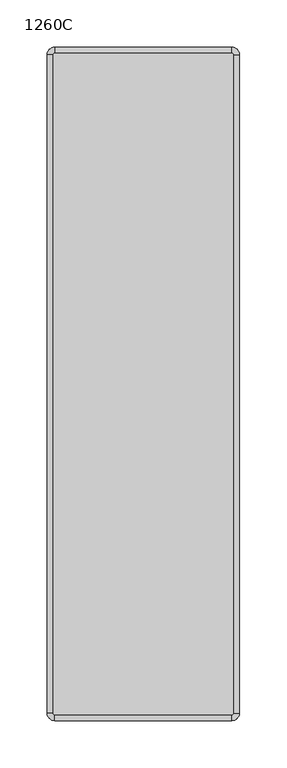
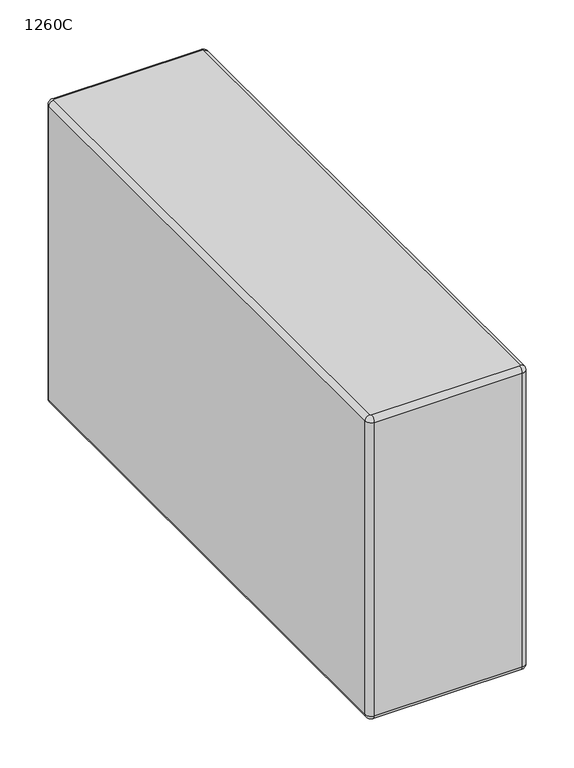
"""IFC4 building model written with IfcOpenShell, lengths in millimetres: furniture geometry, Laguna-Box_Arm-ERG : 1260C."""

import ifcopenshell
import ifcopenshell.guid

model = None  # the IFC model being written
_history = None  # IfcOwnerHistory: only IFC2X3 demands one
_inside = {}  # id of a spatial element -> (the spatial element, [elements in it])
_under = {}  # id of a project, library or spatial element -> (it, [spatial elements below it])
_declared = {}  # id of a project -> (the project, [libraries it declares])
_typed = {}  # id of a type object -> (the type object, [elements of that type])
_made_of = {}  # id of a material, layer set ... -> (it, [elements and type objects made of it])


def new_model(schema):
    """Start an empty IFC model of exactly this schema.

    Asked for "IFC4X3", IfcOpenShell would pick the latest addendum, in which some entities
    have other attributes; the version numbers below select the first issue.
    IFC2X3 requires an IfcOwnerHistory on every rooted entity: one is made here for all.
    """
    global model, _history
    if schema == "IFC4X3":
        model = ifcopenshell.file(schema_version=(4, 3, 0, 0))
    else:
        model = ifcopenshell.file(schema=schema)
    _inside.clear()
    _under.clear()
    _declared.clear()
    _typed.clear()
    _made_of.clear()
    _history = None
    if model.schema == "IFC2X3":
        org = make("IfcOrganization", Name="unknown")
        user = make(
            "IfcPersonAndOrganization",
            ThePerson=make("IfcPerson", FamilyName="unknown"),
            TheOrganization=org,
        )
        app = make(
            "IfcApplication",
            ApplicationDeveloper=org,
            Version="unknown",
            ApplicationFullName="unknown",
            ApplicationIdentifier="unknown",
        )
        _history = make(
            "IfcOwnerHistory",
            OwningUser=user,
            OwningApplication=app,
            ChangeAction="ADDED",
            CreationDate=0,
        )
    return model


def make(cls, **values):
    """One entity of the class cls with the attributes given. An attribute that is None is left unset."""
    return model.create_entity(
        cls, **{name: value for name, value in values.items() if value is not None}
    )


def rooted(cls, **values):
    """An entity with a GlobalId (a new one), such as an element, a storey or a relation."""
    return make(cls, GlobalId=ifcopenshell.guid.new(), OwnerHistory=_history, **values)


def si_unit(unit_type, name, prefix=None):
    """IfcSIUnit, for example si_unit("LENGTHUNIT", "METRE", prefix="MILLI")."""
    return make("IfcSIUnit", UnitType=unit_type, Prefix=prefix, Name=name)


def assignment(units):
    """IfcUnitAssignment: the units of a project."""
    return None if units is None else make("IfcUnitAssignment", Units=units)


def point(xyz):
    """IfcCartesianPoint."""
    return None if xyz is None else make("IfcCartesianPoint", Coordinates=xyz)


def direction(xyz):
    """IfcDirection."""
    return None if xyz is None else make("IfcDirection", DirectionRatios=xyz)


def frame(location, z_axis=None, x_axis=None):
    """IfcAxis2Placement3D, a coordinate frame: its origin and axes. An axis left out is left unset."""
    return make(
        "IfcAxis2Placement3D",
        Location=point(location),
        Axis=direction(z_axis),
        RefDirection=direction(x_axis),
    )


def origin():
    """The frame at (0, 0, 0) with its axes left unset."""
    return frame((0.0, 0.0, 0.0))


def place(relative_to, where):
    """IfcLocalPlacement: puts the frame where relative to a parent placement (None: the world)."""
    return make(
        "IfcLocalPlacement", PlacementRelTo=relative_to, RelativePlacement=where
    )


def context(
    kind, dimensions, precision=None, world=None, true_north=None, identifier=None
):
    """IfcGeometricRepresentationContext, for example the 3D "Model" context."""
    return make(
        "IfcGeometricRepresentationContext",
        ContextIdentifier=identifier,
        ContextType=kind,
        CoordinateSpaceDimension=dimensions,
        Precision=precision,
        WorldCoordinateSystem=world,
        TrueNorth=true_north,
    )


def project(units=None, contexts=None):
    """IfcProject with its units and contexts."""
    return rooted(
        "IfcProject",
        Name="project",
        RepresentationContexts=contexts,
        UnitsInContext=assignment(units),
    )


def spatial(cls, under=None, at=None, **own):
    """A site, building, storey or space (cls), placed at a placement, below another one or the project."""
    s = rooted(cls, ObjectPlacement=at, **own)
    if under is not None:
        _under.setdefault(under.id(), (under, []))[1].append(s)
    return s


def circle_curve(where, radius):
    """IfcCircle in the frame where."""
    return make("IfcCircle", Position=where, Radius=radius)


def ellipse_curve(where, semi_axis1, semi_axis2):
    """IfcEllipse in the frame where."""
    return make(
        "IfcEllipse", Position=where, SemiAxis1=semi_axis1, SemiAxis2=semi_axis2
    )


def trimmed(basis, trim1, trim2, sense, master):
    """IfcTrimmedCurve: the piece of a basis curve between two trims."""
    return make(
        "IfcTrimmedCurve",
        BasisCurve=basis,
        Trim1=trim1,
        Trim2=trim2,
        SenseAgreement=sense,
        MasterRepresentation=master,
    )


def shape(context_of_items, identifier, shape_type, items):
    """IfcShapeRepresentation: the items that make up one representation, for example the "Body"."""
    return make(
        "IfcShapeRepresentation",
        ContextOfItems=context_of_items,
        RepresentationIdentifier=identifier,
        RepresentationType=shape_type,
        Items=items,
    )


def source(mapping_origin, context_of_items, identifier, shape_type, items):
    """IfcRepresentationMap: a shape defined once, which mapped items show again and again."""
    return make(
        "IfcRepresentationMap",
        MappingOrigin=mapping_origin,
        MappedRepresentation=shape(context_of_items, identifier, shape_type, items),
    )


def transform(
    local_origin,
    x_axis=None,
    y_axis=None,
    z_axis=None,
    scale=None,
    scale2=None,
    scale3=None,
    uniform=True,
):
    """IfcCartesianTransformationOperator3D, or its non-uniform kind. x_axis, y_axis, z_axis: its Axis1, 2, 3."""
    if uniform:
        return make(
            "IfcCartesianTransformationOperator3D",
            Axis1=direction(x_axis),
            Axis2=direction(y_axis),
            LocalOrigin=point(local_origin),
            Scale=scale,
            Axis3=direction(z_axis),
        )
    return make(
        "IfcCartesianTransformationOperator3DnonUniform",
        Axis1=direction(x_axis),
        Axis2=direction(y_axis),
        LocalOrigin=point(local_origin),
        Scale=scale,
        Axis3=direction(z_axis),
        Scale2=scale2,
        Scale3=scale3,
    )


def mapped(mapping_source, mapping_target):
    """IfcMappedItem: shows the shape of a source again, moved by a transform."""
    return make(
        "IfcMappedItem", MappingSource=mapping_source, MappingTarget=mapping_target
    )


def made_of(thing, what):
    """Note that an element or type object is made of a material, layer set ...; save() writes the relation."""
    if what is not None:
        _made_of.setdefault(what.id(), (what, []))[1].append(thing)
    return thing


def element(
    cls,
    number,
    at=None,
    inside=None,
    cuts=None,
    type_object=None,
    material=None,
    context=None,
    identifier="Body",
    shape_type=None,
    held_by="IfcProductDefinitionShape",
    body=None,
    shapes=None,
    **own,
):
    """One element of the class cls, such as IfcWall. Its Tag is "e" and its number.

    at: its placement. inside: the storey or other place that contains it. cuts: it is an
    opening in that element (IfcRelVoidsElement). A single representation is given by context,
    identifier, shape_type and body (its items); several are given by shapes. held_by: the class
    of the entity that holds the representations. save() writes the other relations.
    """
    e = rooted(cls, Tag="e%d" % number, ObjectPlacement=at, **own)
    if body is not None:
        shapes = [shape(context, identifier, shape_type, body)]
    if shapes is not None:
        e.Representation = make(held_by, Representations=shapes)
    if inside is not None:
        _inside.setdefault(inside.id(), (inside, []))[1].append(e)
    if cuts is not None:
        rooted(
            "IfcRelVoidsElement", RelatingBuildingElement=cuts, RelatedOpeningElement=e
        )
    if type_object is not None:
        _typed.setdefault(type_object.id(), (type_object, []))[1].append(e)
    return made_of(e, material)


def aggregate(whole, parts):
    """IfcRelAggregates: a whole, such as a stair, and the parts it consists of."""
    return rooted("IfcRelAggregates", RelatingObject=whole, RelatedObjects=parts)


def save(model, path):
    """Write the relations noted so far, then the file.

    IfcRelAggregates (storeys below a building ...), IfcRelContainedInSpatialStructure (elements
    in a storey), IfcRelDefinesByType, IfcRelAssociatesMaterial and IfcRelDeclares: one each for
    every whole, place, type object, material and project.
    """
    for whole, parts in _under.values():
        aggregate(whole, parts)
    for where, things in _inside.values():
        rooted(
            "IfcRelContainedInSpatialStructure",
            RelatedElements=things,
            RelatingStructure=where,
        )
    for kind, things in _typed.values():
        rooted("IfcRelDefinesByType", RelatedObjects=things, RelatingType=kind)
    for what, things in _made_of.values():
        rooted("IfcRelAssociatesMaterial", RelatedObjects=things, RelatingMaterial=what)
    for by, libraries in _declared.values():
        rooted("IfcRelDeclares", RelatingContext=by, RelatedDefinitions=libraries)
    model.write(path)


def plane_surface(at):
    """IfcPlane: the flat surface through the origin of the frame at, square to its z axis."""
    return make("IfcPlane", Position=at)


def cylinder_surface(at, radius):
    """IfcCylindricalSurface: all points at the distance radius from the z axis of the frame at."""
    return make("IfcCylindricalSurface", Position=at, Radius=radius)


def revolved_surface(curve, axis_point, axis_direction):
    """IfcSurfaceOfRevolution: the curve turned about the line through axis_point along axis_direction."""
    return make(
        "IfcSurfaceOfRevolution",
        SweptCurve=make("IfcArbitraryOpenProfileDef", ProfileType="CURVE", Curve=curve),
        AxisPosition=make("IfcAxis1Placement", Location=point(axis_point), Axis=direction(axis_direction)),
    )


def advanced_brep(points, edges, surfaces, faces):
    """IfcAdvancedBrep: a solid bounded by faces that lie on surfaces and meet in shared edges.

    An edge is (start, end): straight between two places in points (the first is 0);
    or (start, end, curve); or (start, end, curve, False) where it runs against its curve.
    A face is (place in surfaces, loops), or (place, loops, False) where it looks against
    its surface's normal. A loop lists edges by number (the first is 1), with a minus sign
    where the edge is run from its end to its start. The first loop is the outer one.
    """
    corners = [point(p) for p in points]
    vertices = [make("IfcVertexPoint", VertexGeometry=c) for c in corners]
    made = []
    for start, end, *more in edges:
        made.append(
            make(
                "IfcEdgeCurve",
                EdgeStart=vertices[start],
                EdgeEnd=vertices[end],
                EdgeGeometry=more[0] if more else make("IfcPolyline", Points=[corners[start], corners[end]]),
                SameSense=more[1] if len(more) > 1 else True,
            )
        )
    hull = []
    for where, loops, *sense in faces:
        bounds = []
        for j, loop in enumerate(loops):
            ring = [make("IfcOrientedEdge", EdgeElement=made[abs(k) - 1], Orientation=k > 0) for k in loop]
            bounds.append(
                make(
                    "IfcFaceOuterBound" if j == 0 else "IfcFaceBound",
                    Bound=make("IfcEdgeLoop", EdgeList=ring),
                    Orientation=True,
                )
            )
        hull.append(make("IfcAdvancedFace", Bounds=bounds, FaceSurface=surfaces[where], SameSense=sense[0] if sense else True))
    return make("IfcAdvancedBrep", Outer=make("IfcClosedShell", CfsFaces=hull))


def furniture_1260c_ce64365a(model_context):
    return source(origin(), model_context, "Body", "AdvancedBrep", [
        advanced_brep(
        [(-4669.0921763, 1251.9358502, 609.6), (-4670.3621763, 1253.2058502, 609.6), (-4858.3221763, 1253.2058502, 609.6), (-4859.5921763, 1251.9358502, 609.6), (-4859.5921763, 555.9758502, 609.6), (-4858.3221763, 554.7058502, 609.6), (-4670.3621763, 554.7058502, 609.6), (-4669.0921763, 555.9758502, 609.6), (-4670.3621763, 1253.2058502, 203.2), (-4669.0921763, 1251.9358502, 203.2), (-4669.0921763, 555.9758502, 203.2), (-4670.3621763, 554.7058502, 203.2), (-4858.3221763, 554.7058502, 203.2), (-4859.5921763, 555.9758502, 203.2), (-4859.5921763, 1251.9358502, 203.2), (-4858.322176, 1253.2058502, 203.2), (-4662.7421763, 1251.9358502, 209.55), (-4670.3621763, 1259.5558502, 209.55), (-4670.3621763, 1259.5558502, 603.25), (-4662.7421763, 1251.9358502, 603.25), (-4662.7421763, 555.9758502, 603.25), (-4662.7421763, 555.9758502, 209.55), (-4670.3621763, 548.3558502, 603.25), (-4670.3621763, 548.3558502, 209.55), (-4858.3221763, 548.3558502, 603.25), (-4858.3221763, 548.3558502, 209.55), (-4865.9421763, 555.9758502, 603.25), (-4865.9421763, 555.9758502, 209.55), (-4865.9421763, 1251.9358502, 603.25), (-4865.9421763, 1251.9358502, 209.55), (-4858.3221763, 1259.5558502, 603.25), (-4858.3221763, 1259.5558502, 209.55)],
        [
            (0, 1, circle_curve(frame((-4670.3621763, 1251.9358502, 609.6), z_axis=(0.0, 0.0, 1.0), x_axis=(0.0, 1.0, 0.0)), 1.27)),
            (1, 2),
            (2, 3, circle_curve(frame((-4858.3221763, 1251.9358502, 609.6), z_axis=(0.0, 0.0, 1.0), x_axis=(-1.0, 0.0, 0.0)), 1.27)),
            (3, 4),
            (4, 5, circle_curve(frame((-4858.3221763, 555.9758502, 609.6), z_axis=(0.0, 0.0, 1.0), x_axis=(0.0, -1.0, 0.0)), 1.27)),
            (5, 6),
            (6, 7, circle_curve(frame((-4670.3621763, 555.9758502, 609.6), z_axis=(0.0, 0.0, 1.0), x_axis=(1.0, 0.0, 0.0)), 1.27)),
            (7, 0),
            (8, 9, circle_curve(frame((-4670.3621763, 1251.9358502, 203.2), z_axis=(0.0, 0.0, -1.0), x_axis=(0.0, 1.0, 0.0)), 1.27)),
            (9, 10),
            (10, 11, circle_curve(frame((-4670.3621763, 555.9758502, 203.2), z_axis=(0.0, 0.0, -1.0), x_axis=(1.0, 0.0, 0.0)), 1.27)),
            (11, 12),
            (12, 13, circle_curve(frame((-4858.3221763, 555.9758502, 203.2), z_axis=(0.0, 0.0, -1.0), x_axis=(0.0, -1.0, 0.0)), 1.27)),
            (13, 14),
            (14, 15, circle_curve(frame((-4858.3221763, 1251.9358502, 203.2), z_axis=(0.0, 0.0, -1.0), x_axis=(-1.0, 0.0, 0.0)), 1.27)),
            (15, 8),
            (16, 17, circle_curve(frame((-4670.3621763, 1251.9358502, 209.55), z_axis=(0.0, 0.0, 1.0), x_axis=(0.0, 1.0, 0.0)), 7.62)),
            (17, 18),
            (18, 19, circle_curve(frame((-4670.3621763, 1251.9358502, 603.25), z_axis=(0.0, 0.0, -1.0), x_axis=(0.0, 1.0, 0.0)), 7.62)),
            (19, 16),
            (16, 9, circle_curve(frame((-4669.0921763, 1251.9358502, 209.55), z_axis=(0.0, 1.0, 0.0), x_axis=(1.0, 0.0, 0.0)), 6.35)),
            (8, 17, circle_curve(frame((-4670.3621763, 1253.2058502, 209.55), z_axis=(1.0, 0.0, 0.0), x_axis=(0.0, 1.0, 0.0)), 6.35)),
            (18, 1, circle_curve(frame((-4670.3621763, 1253.2058502, 603.25), z_axis=(1.0, 0.0, 0.0), x_axis=(0.0, 1.0, 0.0)), 6.35)),
            (0, 19, circle_curve(frame((-4669.0921763, 1251.9358502, 603.25), z_axis=(0.0, 1.0, 0.0), x_axis=(1.0, 0.0, 0.0)), 6.35)),
            (19, 20),
            (20, 21),
            (21, 16),
            (21, 10, circle_curve(frame((-4669.0921763, 555.9758502, 209.55), z_axis=(0.0, 1.0, 0.0), x_axis=(1.0, 0.0, 0.0)), 6.35)),
            (7, 20, circle_curve(frame((-4669.0921763, 555.9758502, 603.25), z_axis=(0.0, 1.0, 0.0), x_axis=(1.0, 0.0, 0.0)), 6.35)),
            (20, 22, circle_curve(frame((-4670.3621763, 555.9758502, 603.25), z_axis=(0.0, 0.0, -1.0), x_axis=(1.0, 0.0, 0.0)), 7.62)),
            (22, 23),
            (23, 21, circle_curve(frame((-4670.3621763, 555.9758502, 209.55), z_axis=(0.0, 0.0, 1.0), x_axis=(1.0, 0.0, 0.0)), 7.62)),
            (23, 11, circle_curve(frame((-4670.3621763, 554.7058502, 209.55), z_axis=(1.0, 0.0, 0.0), x_axis=(0.0, -1.0, 0.0)), 6.35)),
            (6, 22, circle_curve(frame((-4670.3621763, 554.7058502, 603.25), z_axis=(1.0, 0.0, 0.0), x_axis=(0.0, -1.0, 0.0)), 6.35)),
            (22, 24),
            (24, 25),
            (25, 23),
            (25, 12, circle_curve(frame((-4858.3221763, 554.7058502, 209.55), z_axis=(1.0, 0.0, 0.0), x_axis=(0.0, -1.0, 0.0)), 6.35)),
            (5, 24, circle_curve(frame((-4858.3221763, 554.7058502, 603.25), z_axis=(1.0, 0.0, 0.0), x_axis=(0.0, -1.0, 0.0)), 6.35)),
            (24, 26, circle_curve(frame((-4858.3221763, 555.9758502, 603.25), z_axis=(0.0, 0.0, -1.0), x_axis=(0.0, -1.0, 0.0)), 7.62)),
            (26, 27),
            (27, 25, circle_curve(frame((-4858.3221763, 555.9758502, 209.55), z_axis=(0.0, 0.0, 1.0), x_axis=(0.0, -1.0, 0.0)), 7.62)),
            (27, 13, circle_curve(frame((-4859.5921763, 555.9758502, 209.55), z_axis=(0.0, -1.0, 0.0), x_axis=(-1.0, 0.0, 0.0)), 6.35)),
            (4, 26, circle_curve(frame((-4859.5921763, 555.9758502, 603.25), z_axis=(0.0, -1.0, 0.0), x_axis=(-1.0, 0.0, 0.0)), 6.35)),
            (26, 28),
            (28, 29),
            (29, 27),
            (29, 14, circle_curve(frame((-4859.5921763, 1251.9358502, 209.55), z_axis=(0.0, -1.0, 0.0), x_axis=(-1.0, 0.0, 0.0)), 6.35)),
            (3, 28, circle_curve(frame((-4859.5921763, 1251.9358502, 603.25), z_axis=(0.0, -1.0, 0.0), x_axis=(-1.0, 0.0, 0.0)), 6.35)),
            (28, 30, circle_curve(frame((-4858.3221763, 1251.9358502, 603.25), z_axis=(0.0, 0.0, -1.0), x_axis=(-1.0, 0.0, 0.0)), 7.62)),
            (30, 31),
            (31, 29, circle_curve(frame((-4858.3221763, 1251.9358502, 209.55), z_axis=(0.0, 0.0, 1.0), x_axis=(-1.0, 0.0, 0.0)), 7.62)),
            (31, 15, circle_curve(frame((-4858.3221763, 1253.2058502, 209.55), z_axis=(-1.0, 0.0, 0.0), x_axis=(0.0, 1.0, 0.0)), 6.35)),
            (2, 30, circle_curve(frame((-4858.3221763, 1253.2058502, 603.25), z_axis=(-1.0, 0.0, 0.0), x_axis=(0.0, 1.0, 0.0)), 6.35)),
            (17, 31),
            (30, 18),
        ],
        [
            plane_surface(frame((-4857.0521763, 1251.9358502, 609.6), z_axis=(0.0, 0.0, 1.0), x_axis=(0.0, 1.0, 0.0))),
            plane_surface(frame((-4857.0521763, 1251.9358502, 203.2), z_axis=(0.0, 0.0, -1.0), x_axis=(0.0, -1.0, 0.0))),
            cylinder_surface(frame((-4670.3621763, 1251.9358502, 0.0), z_axis=(0.0, 0.0, -1.0), x_axis=(0.0, 1.0, 0.0)), 7.62),
            revolved_surface(trimmed(ellipse_curve(frame((-4670.3621763, 1253.2058502, 209.55), z_axis=(-1.0, 0.0, 0.0), x_axis=(0.0, 1.0, 0.0)), 6.35, 6.35), [point((-4670.3621763, 1259.5558502, 209.55))], [point((-4670.3621763, 1253.2058502, 203.2))], True, "CARTESIAN"), (-4670.3621763, 1251.9358502, 0.0), (0.0, 0.0, -1.0)),
            revolved_surface(trimmed(ellipse_curve(frame((-4670.3621763, 1253.2058502, 603.25), z_axis=(-1.0, 0.0, 0.0), x_axis=(0.0, 1.0, 0.0)), 6.35, 6.35), [point((-4670.3621763, 1253.2058502, 609.6))], [point((-4670.3621763, 1259.5558502, 603.25))], True, "CARTESIAN"), (-4670.3621763, 1251.9358502, 0.0), (0.0, 0.0, -1.0)),
            plane_surface(frame((-4662.7421763, 1251.9358502, 603.25), z_axis=(1.0, 0.0, 0.0), x_axis=(0.0, -1.0, 0.0))),
            cylinder_surface(frame((-4669.0921763, 1251.9358502, 209.55), z_axis=(0.0, 1.0, 0.0), x_axis=(1.0, 0.0, 0.0)), 6.35),
            cylinder_surface(frame((-4669.0921763, 1251.9358502, 603.25), z_axis=(0.0, 1.0, 0.0), x_axis=(1.0, 0.0, 0.0)), 6.35),
            cylinder_surface(frame((-4670.3621763, 555.9758502, 0.0), z_axis=(0.0, 0.0, -1.0), x_axis=(1.0, 0.0, 0.0)), 7.62),
            revolved_surface(trimmed(ellipse_curve(frame((-4669.0921763, 555.9758502, 209.55), z_axis=(0.0, 1.0, 0.0), x_axis=(1.0, 0.0, 0.0)), 6.35, 6.35), [point((-4662.7421763, 555.9758502, 209.55))], [point((-4669.0921763, 555.9758502, 203.2))], True, "CARTESIAN"), (-4670.3621763, 555.9758502, 0.0), (0.0, 0.0, -1.0)),
            revolved_surface(trimmed(ellipse_curve(frame((-4669.0921763, 555.9758502, 603.25), z_axis=(0.0, 1.0, 0.0), x_axis=(1.0, 0.0, 0.0)), 6.35, 6.35), [point((-4669.0921763, 555.9758502, 609.6))], [point((-4662.7421763, 555.9758502, 603.25))], True, "CARTESIAN"), (-4670.3621763, 555.9758502, 0.0), (0.0, 0.0, -1.0)),
            plane_surface(frame((-4670.3621763, 548.3558502, 603.25), z_axis=(0.0, -1.0, 0.0), x_axis=(-1.0, 0.0, 0.0))),
            cylinder_surface(frame((-4670.3621763, 554.7058502, 209.55), z_axis=(1.0, 0.0, 0.0), x_axis=(0.0, -1.0, 0.0)), 6.35),
            cylinder_surface(frame((-4670.3621763, 554.7058502, 603.25), z_axis=(1.0, 0.0, 0.0), x_axis=(0.0, -1.0, 0.0)), 6.35),
            cylinder_surface(frame((-4858.3221763, 555.9758502, 0.0), z_axis=(0.0, 0.0, -1.0), x_axis=(0.0, -1.0, 0.0)), 7.62),
            revolved_surface(trimmed(ellipse_curve(frame((-4858.3221763, 554.7058502, 209.55), z_axis=(1.0, 0.0, 0.0), x_axis=(0.0, -1.0, 0.0)), 6.35, 6.35), [point((-4858.3221763, 548.3558502, 209.55))], [point((-4858.3221763, 554.7058502, 203.2))], True, "CARTESIAN"), (-4858.3221763, 555.9758502, 0.0), (0.0, 0.0, -1.0)),
            revolved_surface(trimmed(ellipse_curve(frame((-4858.3221763, 554.7058502, 603.25), z_axis=(1.0, 0.0, 0.0), x_axis=(0.0, -1.0, 0.0)), 6.35, 6.35), [point((-4858.3221763, 554.7058502, 609.6))], [point((-4858.3221763, 548.3558502, 603.25))], True, "CARTESIAN"), (-4858.3221763, 555.9758502, 0.0), (0.0, 0.0, -1.0)),
            plane_surface(frame((-4865.9421763, 555.9758502, 603.25), z_axis=(-1.0, 0.0, 0.0), x_axis=(0.0, 1.0, 0.0))),
            cylinder_surface(frame((-4859.5921763, 555.9758502, 209.55), z_axis=(0.0, -1.0, 0.0), x_axis=(-1.0, 0.0, 0.0)), 6.35),
            cylinder_surface(frame((-4859.5921763, 555.9758502, 603.25), z_axis=(0.0, -1.0, 0.0), x_axis=(-1.0, 0.0, 0.0)), 6.35),
            cylinder_surface(frame((-4858.3221763, 1251.9358502, 0.0), z_axis=(0.0, 0.0, -1.0), x_axis=(-1.0, 0.0, 0.0)), 7.62),
            revolved_surface(trimmed(ellipse_curve(frame((-4859.5921763, 1251.9358502, 209.55), z_axis=(0.0, -1.0, 0.0), x_axis=(-1.0, 0.0, 0.0)), 6.35, 6.35), [point((-4865.9421763, 1251.9358502, 209.55))], [point((-4859.5921763, 1251.9358502, 203.2))], True, "CARTESIAN"), (-4858.3221763, 1251.9358502, 0.0), (0.0, 0.0, -1.0)),
            revolved_surface(trimmed(ellipse_curve(frame((-4859.5921763, 1251.9358502, 603.25), z_axis=(0.0, -1.0, 0.0), x_axis=(-1.0, 0.0, 0.0)), 6.35, 6.35), [point((-4859.5921763, 1251.9358502, 609.6))], [point((-4865.9421763, 1251.9358502, 603.25))], True, "CARTESIAN"), (-4858.3221763, 1251.9358502, 0.0), (0.0, 0.0, -1.0)),
            plane_surface(frame((-4858.3221763, 1259.5558502, 603.25), z_axis=(0.0, 1.0, 0.0), x_axis=(1.0, 0.0, 0.0))),
            cylinder_surface(frame((-4858.3221763, 1253.2058502, 209.55), z_axis=(-1.0, 0.0, 0.0), x_axis=(0.0, 1.0, 0.0)), 6.35),
            cylinder_surface(frame((-4858.3221763, 1253.2058502, 603.25), z_axis=(-1.0, 0.0, 0.0), x_axis=(0.0, 1.0, 0.0)), 6.35),
        ],
        [
            (0, [[1, 2, 3, 4, 5, 6, 7, 8]]),
            (1, [[9, 10, 11, 12, 13, 14, 15, 16]]),
            (2, [[17, 18, 19, 20]]),
            (3, [[-17, 21, -9, 22]]),
            (4, [[-19, 23, -1, 24]]),
            (5, [[-20, 25, 26, 27]]),
            (6, [[-21, -27, 28, -10]]),
            (7, [[-24, -8, 29, -25]]),
            (8, [[-26, 30, 31, 32]]),
            (9, [[-28, -32, 33, -11]]),
            (10, [[-29, -7, 34, -30]]),
            (11, [[-31, 35, 36, 37]]),
            (12, [[-33, -37, 38, -12]]),
            (13, [[-34, -6, 39, -35]]),
            (14, [[-36, 40, 41, 42]]),
            (15, [[-38, -42, 43, -13]]),
            (16, [[-39, -5, 44, -40]]),
            (17, [[-41, 45, 46, 47]]),
            (18, [[-43, -47, 48, -14]]),
            (19, [[-44, -4, 49, -45]]),
            (20, [[-46, 50, 51, 52]]),
            (21, [[-48, -52, 53, -15]]),
            (22, [[-49, -3, 54, -50]]),
            (23, [[-18, 55, -51, 56]]),
            (24, [[-22, -16, -53, -55]]),
            (25, [[-23, -56, -54, -2]]),
        ],
    ),
    ])


if __name__ == "__main__":
    model = new_model("IFC4")
    model_context = context("Model", 3, world=origin())
    ifc_project = project(units=[si_unit("LENGTHUNIT", "METRE", prefix="MILLI")], contexts=[model_context])
    site = spatial("IfcSite", under=ifc_project)
    building = spatial("IfcBuilding", under=site)
    placement = place(None, origin())
    furniture_1260c_shape = furniture_1260c_ce64365a(model_context)
    element("IfcFurniture", 1, ObjectType="Laguna-Box_Arm-ERG : 1260C", at=placement, inside=building, context=model_context, shape_type="MappedRepresentation", body=[
        mapped(furniture_1260c_shape, transform((0.0, 0.0, 0.0), x_axis=(1.0, 0.0, 0.0), y_axis=(0.0, 1.0, 0.0), z_axis=(0.0, 0.0, 1.0))),
    ])
    save(model, "model.ifc")
